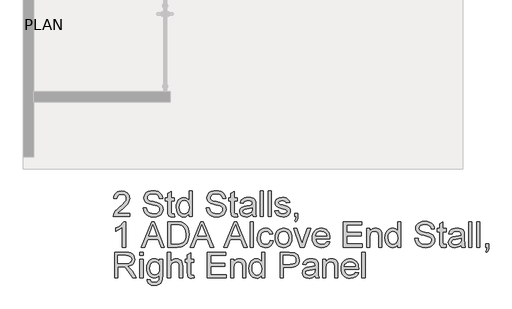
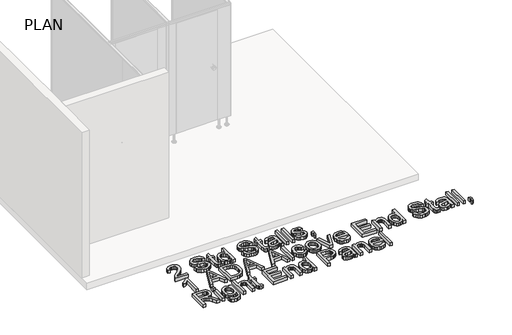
# One storey, part 12 of 21: 1 proxy.
"""IFC4 building model written with IfcOpenShell, lengths in millimetres."""

from ifc_helpers import new_model, si_unit, origin, origin_with_axes, place, context, project, spatial, polyline, outline, extrude, element, save

model = new_model("IFC4")

# Units and contexts
model_context = context("Model", 3, world=origin())
ifc_project = project(units=[si_unit("LENGTHUNIT", "METRE", prefix="MILLI")], contexts=[model_context])

# Site, building, storey
site = spatial("IfcSite", under=ifc_project)
building = spatial("IfcBuilding", under=site)
storey = spatial("IfcBuildingStorey", under=building, Name="PLAN", Elevation=0.0)

# Proxy
placement = place(None, origin())
element("IfcBuildingElementProxy", 1, Name="12\" Arial", ObjectType="12\" Arial", at=placement, inside=storey, context=model_context, shape_type="SweptSolid", body=[
    extrude(outline(polyline([(-21818.3095314, 12285.5104506), (-21818.3095314, 12247.4395639), (-22018.1816869, 12247.4395639), (-22014.0920408, 12273.6876557), (-22004.7044443, 12294.2009485), (-21990.9669514, 12314.1007943), (-21971.0949895, 12334.9301052), (-21943.3039858, 12358.2317929), (-21902.2216324, 12394.7225892), (-21877.5722204, 12421.6584851), (-21865.2475143, 12443.5195021), (-21861.139279, 12464.7856615), (-21865.0151481, 12483.8489889), (-21876.6427553, 12499.6963673), (-21894.5163675, 12510.3759202), (-21917.1302511, 12513.9357712), (-21940.8780821, 12510.4595721), (-21959.3279625, 12500.0309747), (-21971.2344093, 12483.4679082), (-21975.3519393, 12461.5883019), (-22013.422826, 12466.3471627), (-22010.1487855, 12486.0007003), (-22004.1932385, 12503.1725664), (-21995.5561849, 12517.8627608), (-21984.2376248, 12530.0712837), (-21970.4978083, 12539.66801), (-21954.5969856, 12546.5228144), (-21916.3123219, 12552.0066579), (-21895.9082413, 12550.4823353), (-21877.7488187, 12545.9093675), (-21861.8340541, 12538.2877544), (-21848.1639475, 12527.6174961), (-21837.1846421, 12514.6886378), (-21829.342281, 12500.2912249), (-21824.6368644, 12484.4252572), (-21823.0683922, 12467.0907347), (-21824.7600186, 12448.8825152), (-21829.8348975, 12430.9903138), (-21838.8414134, 12412.7913889), (-21852.3279507, 12393.6629991), (-21873.8264764, 12370.8260438), (-21906.8689574, 12341.5014228), (-21950.6653486, 12304.8805014), (-21967.841862, 12285.5104506), (-21818.3095314, 12285.5104506)])), origin_with_axes(), (0.0, 0.0, 1.0), 50.8),
    extrude(outline(polyline([(-21661.2671235, 12352.1345025), (-21623.1962368, 12352.1345025), (-21618.8277512, 12331.0077628), (-21610.9272986, 12314.0264371), (-21598.6025926, 12300.5491945), (-21580.9613468, 12289.9347041), (-21559.3977586, 12283.0473684), (-21535.3060255, 12280.7515898), (-21514.095634, 12282.4896894), (-21495.5249232, 12287.7039881), (-21480.4768847, 12295.9576373), (-21469.8345103, 12306.8137886), (-21463.5048536, 12319.2779144), (-21461.394968, 12332.3554871), (-21462.9750585, 12345.0984523), (-21467.7153301, 12356.1126127), (-21477.3445876, 12365.5095039), (-21493.5916359, 12373.4006619), (-21549.0249291, 12387.9374946), (-21585.4134842, 12397.5574574), (-21608.6965826, 12406.7126878), (-21627.6483741, 12419.5207156), (-21641.0791435, 12435.0427812), (-21649.0818373, 12452.9442773), (-21651.7494018, 12472.8905964), (-21648.449801, 12495.188462), (-21638.5509987, 12515.9805942), (-21622.313245, 12533.6032508), (-21599.9967901, 12546.3926893), (-21573.2096086, 12554.1723114), (-21543.5596748, 12556.7655188), (-21511.4373641, 12554.051481), (-21483.3303422, 12545.9093675), (-21460.2424314, 12532.5064821), (-21443.1774539, 12514.0101284), (-21432.3770705, 12491.5728431), (-21428.0829421, 12466.3471627), (-21466.1538289, 12466.3471627), (-21473.1434057, 12489.0632876), (-21487.7174171, 12505.4590503), (-21510.4893098, 12515.3857366), (-21542.0725308, 12518.694632), (-21574.3993238, 12515.4229152), (-21596.5763589, 12505.6077647), (-21609.402976, 12491.1638785), (-21613.6785151, 12474.0059544), (-21610.6484591, 12459.3761752), (-21601.5582914, 12447.6091482), (-21580.0690604, 12437.0876043), (-21539.3956716, 12426.3429888), (-21497.4210318, 12416.137463), (-21472.0280477, 12407.2331882), (-21450.3250398, 12393.4213382), (-21435.1840548, 12376.3749499), (-21426.2890747, 12356.2799164), (-21423.3240813, 12333.3221307), (-21426.7352179, 12309.8531392), (-21436.9686276, 12287.7783453), (-21453.6060513, 12268.7800805), (-21476.2292296, 12254.5406765), (-21503.4346704, 12245.6456964), (-21533.8188815, 12242.680703), (-21571.1183123, 12245.8780627), (-21601.8185416, 12255.4701416), (-21626.2727659, 12271.4941183), (-21644.8341822, 12293.9871715), (-21656.7499236, 12321.3878), (-21661.2671235, 12352.1345025)])), origin_with_axes(), (0.0, 0.0, 1.0), 50.8),
    extrude(outline(polyline([(-21290.0759776, 12279.1900886), (-21285.3171168, 12246.3242059), (-21313.7959246, 12242.680703), (-21332.0692067, 12244.2607935), (-21345.6951637, 12249.0010651), (-21355.3244212, 12256.3066601), (-21361.6076047, 12265.5827208), (-21365.0652145, 12281.5137511), (-21366.2177511, 12308.7842545), (-21366.2177511, 12433.0351368), (-21394.7709162, 12433.0351368), (-21394.7709162, 12471.1060236), (-21366.2177511, 12471.1060236), (-21366.2177511, 12525.4611373), (-21328.1468644, 12547.8426547), (-21328.1468644, 12471.1060236), (-21290.0759776, 12471.1060236), (-21290.0759776, 12433.0351368), (-21328.1468644, 12433.0351368), (-21328.1468644, 12309.8996125), (-21326.13922, 12290.2693115), (-21319.6329649, 12283.3169132), (-21306.6576334, 12280.7515898), (-21290.0759776, 12279.1900886)])), origin_with_axes(), (0.0, 0.0, 1.0), 50.8),
    extrude(outline(polyline([(-21113.9981264, 12247.4395639), (-21113.9981264, 12283.3540918), (-21125.38872, 12265.5594842), (-21139.1866281, 12252.8490502), (-21155.3918505, 12245.2227898), (-21174.0043873, 12242.680703), (-21198.6166208, 12246.3613845), (-21221.1468526, 12257.4034288), (-21240.2194746, 12275.03538), (-21254.4588785, 12298.4857822), (-21263.3259747, 12326.806581), (-21266.2816734, 12359.0497221), (-21263.5583409, 12390.8931933), (-21255.3883435, 12419.6508407), (-21241.7809758, 12443.6868058), (-21222.7455324, 12461.3652303), (-21199.7226841, 12472.2399709), (-21174.1531017, 12475.8648844), (-21155.526623, 12473.2716771), (-21139.056503, 12465.4920549), (-21125.0959386, 12453.5670189), (-21113.9981264, 12438.5375697), (-21113.9981264, 12552.0066579), (-21075.9272396, 12552.0066579), (-21075.9272396, 12247.4395639), (-21113.9981264, 12247.4395639)]), holes=[polyline([(-21228.2107866, 12359.1984365), (-21223.9166583, 12324.761758), (-21211.0342733, 12300.270355), (-21192.314848, 12285.6312811), (-21170.5095989, 12280.7515898), (-21148.7136444, 12285.4082095), (-21130.4682463, 12299.3780686), (-21118.1156564, 12322.9214172), (-21113.9981264, 12356.2985057), (-21118.1900136, 12392.7893019), (-21130.7656751, 12418.0893395), (-21149.4758057, 12432.8678331), (-21172.0711001, 12437.7939977), (-21194.0994208, 12433.0630208), (-21212.1496313, 12418.8700901), (-21224.1954978, 12394.4902229), (-21228.2107866, 12359.1984365)])]), origin_with_axes(), (0.0, 0.0, 1.0), 50.8),
    extrude(outline(polyline([(-20909.36711, 12352.1345025), (-20871.2962233, 12352.1345025), (-20866.9277377, 12331.0077628), (-20859.0272852, 12314.0264371), (-20846.7025791, 12300.5491945), (-20829.0613333, 12289.9347041), (-20807.4977451, 12283.0473684), (-20783.406012, 12280.7515898), (-20762.1956205, 12282.4896894), (-20743.6249097, 12287.7039881), (-20728.5768712, 12295.9576373), (-20717.9344968, 12306.8137886), (-20711.6048401, 12319.2779144), (-20709.4949546, 12332.3554871), (-20711.0750451, 12345.0984523), (-20715.8153166, 12356.1126127), (-20725.4445741, 12365.5095039), (-20741.6916225, 12373.4006619), (-20797.1249156, 12387.9374946), (-20833.5134707, 12397.5574574), (-20856.7965691, 12406.7126878), (-20875.7483607, 12419.5207156), (-20889.17913, 12435.0427812), (-20897.1818238, 12452.9442773), (-20899.8493883, 12472.8905964), (-20896.5497876, 12495.188462), (-20886.6509852, 12515.9805942), (-20870.4132315, 12533.6032508), (-20848.0967767, 12546.3926893), (-20821.3095951, 12554.1723114), (-20791.6596613, 12556.7655188), (-20759.5373506, 12554.051481), (-20731.4303288, 12545.9093675), (-20708.3424179, 12532.5064821), (-20691.2774404, 12514.0101284), (-20680.477057, 12491.5728431), (-20676.1829286, 12466.3471627), (-20714.2538154, 12466.3471627), (-20721.2433923, 12489.0632876), (-20735.8174036, 12505.4590503), (-20758.5892963, 12515.3857366), (-20790.1725173, 12518.694632), (-20822.4993103, 12515.4229152), (-20844.6763454, 12505.6077647), (-20857.5029625, 12491.1638785), (-20861.7785016, 12474.0059544), (-20858.7484457, 12459.3761752), (-20849.6582779, 12447.6091482), (-20828.1690469, 12437.0876043), (-20787.4956581, 12426.3429888), (-20745.5210183, 12416.137463), (-20720.1280343, 12407.2331882), (-20698.4250263, 12393.4213382), (-20683.2840413, 12376.3749499), (-20674.3890612, 12356.2799164), (-20671.4240678, 12333.3221307), (-20674.8352044, 12309.8531392), (-20685.0686141, 12287.7783453), (-20701.7060378, 12268.7800805), (-20724.3292161, 12254.5406765), (-20751.5346569, 12245.6456964), (-20781.918868, 12242.680703), (-20819.2182988, 12245.8780627), (-20849.9185281, 12255.4701416), (-20874.3727525, 12271.4941183), (-20892.9341687, 12293.9871715), (-20904.8499101, 12321.3878), (-20909.36711, 12352.1345025)])), origin_with_axes(), (0.0, 0.0, 1.0), 50.8),
    extrude(outline(polyline([(-20538.1759641, 12279.1900886), (-20533.4171033, 12246.3242059), (-20561.8959112, 12242.680703), (-20580.1691932, 12244.2607935), (-20593.7951503, 12249.0010651), (-20603.4244078, 12256.3066601), (-20609.7075912, 12265.5827208), (-20613.165201, 12281.5137511), (-20614.3177377, 12308.7842545), (-20614.3177377, 12433.0351368), (-20642.8709027, 12433.0351368), (-20642.8709027, 12471.1060236), (-20614.3177377, 12471.1060236), (-20614.3177377, 12525.4611373), (-20576.2468509, 12547.8426547), (-20576.2468509, 12471.1060236), (-20538.1759641, 12471.1060236), (-20538.1759641, 12433.0351368), (-20576.2468509, 12433.0351368), (-20576.2468509, 12309.8996125), (-20574.2392065, 12290.2693115), (-20567.7329514, 12283.3169132), (-20554.7576199, 12280.7515898), (-20538.1759641, 12279.1900886)])), origin_with_axes(), (0.0, 0.0, 1.0), 50.8),
    extrude(outline(polyline([(-20357.339252, 12275.9927289), (-20375.5288823, 12260.3963061), (-20394.2576022, 12250.1907803), (-20413.9529657, 12244.5582224), (-20435.0425268, 12242.680703), (-20466.858114, 12247.197903), (-20490.3271055, 12260.7495028), (-20504.7988757, 12281.3278581), (-20509.6227991, 12306.9253244), (-20507.8010477, 12322.7076403), (-20502.3357934, 12337.0399907), (-20493.9055458, 12349.3089288), (-20483.1888142, 12358.9010077), (-20456.5317578, 12371.3930174), (-20423.5915179, 12377.1185219), (-20384.6655233, 12383.1414552), (-20357.5623236, 12390.2053892), (-20357.339252, 12398.6821101), (-20359.9603434, 12415.6727305), (-20367.8236173, 12426.789132), (-20385.4090953, 12435.0427812), (-20409.9097929, 12437.7939977), (-20432.5887391, 12435.9629516), (-20448.4268229, 12430.4698134), (-20459.2272063, 12420.3107609), (-20466.7930515, 12404.4819718), (-20504.8639382, 12409.2408326), (-20498.255442, 12430.0608488), (-20488.3938183, 12446.419433), (-20474.3588966, 12458.930032), (-20455.2305068, 12468.2060928), (-20431.8358725, 12473.9501865), (-20405.0022177, 12475.8648844), (-20379.2653316, 12474.1732581), (-20358.8635747, 12469.0983792), (-20343.4809288, 12461.4674714), (-20332.8013758, 12452.1077588), (-20325.7188524, 12440.5359194), (-20321.1272953, 12426.2686316), (-20319.2683653, 12392.9566056), (-20319.2683653, 12345.5910688), (-20317.3350781, 12279.4503388), (-20309.7506436, 12247.4395639), (-20347.8215303, 12247.4395639), (-20353.9188208, 12260.6751456), (-20357.339252, 12275.9927289)]), holes=[polyline([(-20357.339252, 12352.1345025), (-20418.7582998, 12340.460422), (-20451.5126467, 12334.2887743), (-20466.3469083, 12324.2505522), (-20471.5519123, 12309.6021837), (-20468.717044, 12298.2812999), (-20460.2124392, 12289.0052391), (-20446.2239908, 12282.8150021), (-20426.9375919, 12280.7515898), (-20406.4893617, 12283.0287791), (-20388.4205619, 12289.8603469), (-20373.7721934, 12299.9264529), (-20363.5852569, 12311.9072569), (-20359.068057, 12324.2505522), (-20357.5623236, 12341.3527084), (-20357.339252, 12352.1345025)])]), origin_with_axes(), (0.0, 0.0, 1.0), 50.8),
    extrude(outline(polyline([(-20266.920896, 12247.4395639), (-20266.920896, 12552.0066579), (-20228.8500092, 12552.0066579), (-20228.8500092, 12247.4395639), (-20266.920896, 12247.4395639)])), origin_with_axes(), (0.0, 0.0, 1.0), 50.8),
    extrude(outline(polyline([(-20171.7436791, 12247.4395639), (-20171.7436791, 12552.0066579), (-20133.6727923, 12552.0066579), (-20133.6727923, 12247.4395639), (-20171.7436791, 12247.4395639)])), origin_with_axes(), (0.0, 0.0, 1.0), 50.8),
    extrude(outline(polyline([(-20090.8430447, 12314.0636157), (-20052.772158, 12318.8224765), (-20046.767814, 12302.5382496), (-20035.1495014, 12290.5667403), (-20017.8428629, 12283.2053774), (-19994.7735414, 12280.7515898), (-19971.9830594, 12283.0008951), (-19955.9590827, 12289.7488111), (-19946.4785396, 12299.526783), (-19943.3183585, 12310.8662561), (-19946.4971289, 12320.5698708), (-19956.0334399, 12327.9684122), (-19995.2196846, 12338.8245635), (-20052.5490864, 12357.4510423), (-20067.0580352, 12366.810755), (-20077.5702844, 12379.2005235), (-20083.955709, 12393.8303028), (-20086.0841839, 12409.9100474), (-20084.3739683, 12424.6606571), (-20079.2433214, 12438.2773195), (-20071.1569758, 12450.2209448), (-20060.579664, 12459.9524435), (-20036.3763952, 12471.2175594), (-20003.6220483, 12475.8648844), (-19978.8425112, 12473.9966598), (-19957.2975123, 12468.3919858), (-19939.9722845, 12459.5992468), (-19927.8520608, 12448.1668272), (-19919.8214831, 12433.2489138), (-19914.7651935, 12413.9996934), (-19952.8360802, 12409.2408326), (-19957.6414143, 12421.2216366), (-19967.1498414, 12430.2467418), (-19981.4543078, 12435.9071837), (-20000.6477603, 12437.7939977), (-20022.5087773, 12435.9908356), (-20037.0827886, 12430.5813492), (-20045.28067, 12422.7738431), (-20048.0132971, 12413.7766218), (-20043.4775079, 12402.6973989), (-20029.2752825, 12394.2950353), (-19996.483757, 12386.1901004), (-19940.6043207, 12368.270015), (-19925.8444164, 12359.7003476), (-19914.6536577, 12347.9704992), (-19907.5990183, 12333.0432912), (-19905.2474718, 12314.8815449), (-19908.0079829, 12296.1063517), (-19916.2895161, 12278.4465166), (-19929.7760534, 12263.2869423), (-19948.1515766, 12252.0125317), (-19970.347201, 12245.0136602), (-19995.2940418, 12242.680703), (-20033.6809467, 12247.1793137), (-20061.6950221, 12260.6751456), (-20080.395858, 12283.0194844), (-20090.8430447, 12314.0636157)])), origin_with_axes(), (0.0, 0.0, 1.0), 50.8),
    extrude(outline(polyline([(-19852.9000025, 12247.4395639), (-19852.9000025, 12285.5104506), (-19814.8291157, 12285.5104506), (-19814.8291157, 12247.4395639), (-19816.5393313, 12225.6621987), (-19821.6699782, 12208.5135693), (-19830.5184851, 12195.3616394), (-19843.3822808, 12185.5743729), (-19852.9000025, 12199.8509554), (-19844.6463532, 12206.7475858), (-19838.9208488, 12216.2838968), (-19833.9389163, 12247.4395639), (-19852.9000025, 12247.4395639)])), origin_with_axes(), (0.0, 0.0, 1.0), 50.8),
    extrude(outline(polyline([(-21870.6570007, 11881.3868995), (-21908.7278874, 11881.3868995), (-21908.7278874, 12118.7350842), (-21944.7911298, 12093.0446713), (-21984.869661, 12073.823335), (-21984.869661, 12109.8122201), (-21954.9687716, 12126.0778577), (-21929.0645818, 12145.4293192), (-21908.6442356, 12166.0076745), (-21895.1948769, 12185.9539936), (-21870.6570007, 12185.9539936), (-21870.6570007, 11881.3868995)])), origin_with_axes(), (0.0, 0.0, 1.0), 50.8),
    extrude(outline(polyline([(-21682.4589257, 11881.3868995), (-21560.8849026, 12185.9539936), (-21528.4651631, 12185.9539936), (-21406.8911399, 11881.3868995), (-21447.1183855, 11881.3868995), (-21481.9919126, 11976.5641164), (-21607.4325102, 11976.5641164), (-21642.2316801, 11881.3868995), (-21682.4589257, 11881.3868995)]), holes=[polyline([(-21593.4533565, 12014.6350032), (-21495.8967092, 12014.6350032), (-21523.3345162, 12089.5127043), (-21544.6750328, 12147.8831068), (-21563.636119, 12096.056138), (-21593.4533565, 12014.6350032)])]), origin_with_axes(), (0.0, 0.0, 1.0), 50.8),
    extrude(outline(polyline([(-21366.2177511, 11881.3868995), (-21366.2177511, 12185.9539936), (-21261.1510265, 12185.9539936), (-21206.7959128, 12181.5669188), (-21182.5182868, 12173.1087872), (-21162.032878, 12159.780259), (-21140.9712009, 12136.5808123), (-21125.9696357, 12107.7302185), (-21116.9910037, 12073.7861564), (-21113.9981264, 12035.306305), (-21116.0243601, 12002.6170206), (-21122.1030612, 11973.8500786), (-21131.3605327, 11949.3586756), (-21142.9230774, 11929.4960084), (-21156.2330164, 11913.8159337), (-21170.7326705, 11901.8723083), (-21187.3793888, 11893.0145068), (-21207.1305202, 11886.5919036), (-21256.0947369, 11881.3868995), (-21366.2177511, 11881.3868995)]), holes=[polyline([(-21328.1468644, 11919.4577863), (-21260.7792405, 11919.4577863), (-21232.9138796, 11920.8333945), (-21211.7778453, 11924.9602191), (-21195.8282257, 11931.5965993), (-21183.522109, 11940.5008741), (-21170.2958219, 11956.9802887), (-21160.359841, 11978.3115107), (-21154.1417201, 12004.5874864), (-21152.0690131, 12035.9011626), (-21156.1307752, 12077.3924806), (-21168.3160615, 12108.0276473), (-21186.3197987, 12129.0707351), (-21207.8369136, 12141.7858164), (-21229.7351093, 12146.3587842), (-21261.8202414, 12147.8831068), (-21328.1468644, 12147.8831068), (-21328.1468644, 11919.4577863)])]), origin_with_axes(), (0.0, 0.0, 1.0), 50.8),
    extrude(outline(polyline([(-21097.1190418, 11881.3868995), (-20975.5450187, 12185.9539936), (-20943.1252792, 12185.9539936), (-20821.551256, 11881.3868995), (-20861.7785016, 11881.3868995), (-20896.6520287, 11976.5641164), (-21022.0926263, 11976.5641164), (-21056.8917962, 11881.3868995), (-21097.1190418, 11881.3868995)]), holes=[polyline([(-21008.1134726, 12014.6350032), (-20910.5568252, 12014.6350032), (-20937.9946323, 12089.5127043), (-20959.3351489, 12147.8831068), (-20978.2962351, 12096.056138), (-21008.1134726, 12014.6350032)])]), origin_with_axes(), (0.0, 0.0, 1.0), 50.8),
    extrude(outline(polyline([(-20697.3747308, 11881.3868995), (-20575.8007077, 12185.9539936), (-20543.3809682, 12185.9539936), (-20421.806945, 11881.3868995), (-20462.0341906, 11881.3868995), (-20496.9077178, 11976.5641164), (-20622.3483153, 11976.5641164), (-20657.1474853, 11881.3868995), (-20697.3747308, 11881.3868995)]), holes=[polyline([(-20608.3691616, 12014.6350032), (-20510.8125143, 12014.6350032), (-20538.2503213, 12089.5127043), (-20559.5908379, 12147.8831068), (-20578.5519241, 12096.056138), (-20608.3691616, 12014.6350032)])]), origin_with_axes(), (0.0, 0.0, 1.0), 50.8),
    extrude(outline(polyline([(-20385.8924171, 11881.3868995), (-20385.8924171, 12185.9539936), (-20347.8215303, 12185.9539936), (-20347.8215303, 11881.3868995), (-20385.8924171, 11881.3868995)])), origin_with_axes(), (0.0, 0.0, 1.0), 50.8),
    extrude(outline(polyline([(-20147.9493749, 11962.2875339), (-20109.8784881, 11957.5286731), (-20120.4929785, 11923.6682628), (-20140.4392976, 11898.0800911), (-20167.8399261, 11881.9910518), (-20200.8173446, 11876.6280387), (-20222.1694795, 11878.498587), (-20241.314135, 11884.110232), (-20258.2513111, 11893.4629737), (-20272.9810078, 11906.556812), (-20284.9037202, 11923.1454387), (-20293.4199434, 11942.9825457), (-20298.5296773, 11966.0681328), (-20300.2329219, 11992.4022002), (-20297.3236964, 12026.2811998), (-20288.59602, 12055.6429994), (-20273.9104729, 12079.3536518), (-20253.1276353, 12096.2792096), (-20228.2644463, 12106.4289675), (-20201.337845, 12109.8122201), (-20169.169061, 12105.164895), (-20143.4507642, 12091.2229199), (-20125.0008838, 12068.7298667), (-20114.637349, 12038.4293074), (-20152.7082357, 12033.6704466), (-20159.6141607, 12050.2799863), (-20170.3680709, 12062.186433), (-20184.3751086, 12069.3526083), (-20201.0404162, 12071.7413333), (-20225.6433549, 12067.0382404), (-20245.1714148, 12052.9289616), (-20257.91438, 12028.6513355), (-20262.1620351, 11993.443201), (-20258.0073266, 11957.7610393), (-20245.5432008, 11933.3997614), (-20226.3683377, 11919.3741344), (-20202.081417, 11914.6989255), (-20182.3674641, 11917.6174456), (-20166.2040676, 11926.373006), (-20154.4463353, 11941.1886782), (-20147.9493749, 11962.2875339)])), origin_with_axes(), (0.0, 0.0, 1.0), 50.8),
    extrude(outline(polyline([(-20086.0841839, 11993.2201294), (-20084.0254189, 12022.1869064), (-20077.8491239, 12047.1476892), (-20067.5552989, 12068.1024778), (-20053.143944, 12085.0512723), (-20038.6349952, 12095.8841869), (-20022.6203131, 12103.6219831), (-20005.0998977, 12108.2646608), (-19986.0737489, 12109.8122201), (-19965.0701634, 12107.9277298), (-19946.0788696, 12102.2742589), (-19929.0998676, 12092.8518073), (-19914.1331573, 12079.6603752), (-19901.9176634, 12063.1461057), (-19893.1923106, 12043.7551419), (-19887.957099, 12021.487484), (-19886.2120284, 11996.3431318), (-19889.2978522, 11957.8818698), (-19898.5553237, 11928.603722), (-19913.714898, 11906.6776424), (-19934.5070303, 11890.272585), (-19959.2029155, 11880.0391753), (-19986.0737489, 11876.6280387), (-20007.3840579, 11878.505558), (-20026.5519501, 11884.138116), (-20043.5774254, 11893.5257126), (-20058.4604838, 11906.6683478), (-20070.5458526, 11923.34295), (-20079.1782589, 11943.3264477), (-20084.3577026, 11966.6188408), (-20086.0841839, 11993.2201294)]), holes=[polyline([(-20048.0132971, 11993.2944866), (-20043.607633, 11958.8392187), (-20030.3906406, 11934.2920478), (-20010.5000894, 11919.597206), (-19986.0737489, 11914.6989255), (-19961.7589443, 11919.62509), (-19941.9055717, 11934.4035836), (-19928.6885793, 11959.2760673), (-19924.2829152, 11994.4842018), (-19928.7164632, 12027.9356475), (-19942.0171075, 12052.1482109), (-19961.8983641, 12066.8430527), (-19986.0737489, 12071.7413333), (-20010.5000894, 12066.861642), (-20030.3906406, 12052.2225681), (-20043.607633, 12027.7311652), (-20048.0132971, 11993.2944866)])]), origin_with_axes(), (0.0, 0.0, 1.0), 50.8),
    extrude(outline(polyline([(-19788.5066667, 11881.3868995), (-19867.176585, 12105.0533592), (-19826.8749822, 12105.0533592), (-19779.2120166, 11971.0616836), (-19764.8610769, 11926.00122), (-19750.8075659, 11968.5335388), (-19702.8471715, 12105.0533592), (-19662.5455687, 12105.0533592), (-19740.2488434, 11881.3868995), (-19788.5066667, 11881.3868995)])), origin_with_axes(), (0.0, 0.0, 1.0), 50.8),
    extrude(outline(polyline([(-19472.6372781, 11948.0109514), (-19435.3099634, 11943.2520905), (-19448.759322, 11915.1264794), (-19470.2206691, 11894.1019809), (-19499.2106827, 11880.9965242), (-19535.2460411, 11876.6280387), (-19558.8683943, 11878.512529), (-19579.9161294, 11884.1659999), (-19598.3892465, 11893.5884514), (-19614.2877454, 11906.7798836), (-19627.0725366, 11923.3731576), (-19636.2045303, 11943.001135), (-19641.6837266, 11965.6638155), (-19643.5101253, 11991.3611994), (-19641.6651373, 12017.9299566), (-19636.1301731, 12041.3478275), (-19626.9052329, 12061.6148121), (-19613.9903166, 12078.7309102), (-19598.1336436, 12092.3289833), (-19580.0834331, 12102.0418926), (-19559.8396852, 12107.8696382), (-19537.4023999, 12109.8122201), (-19515.6877736, 12107.8742855), (-19496.0505017, 12102.0604819), (-19478.490584, 12092.3708092), (-19463.0080206, 12078.8052674), (-19450.3696202, 12061.7263479), (-19441.3421913, 12041.4965419), (-19435.9257339, 12018.1158497), (-19434.1202481, 11991.584271), (-19434.3433197, 11981.3229773), (-19605.4392386, 11981.3229773), (-19598.8493316, 11952.8255801), (-19583.5410429, 11931.8754388), (-19561.4476597, 11918.9930538), (-19534.5024691, 11914.6989255), (-19514.2401319, 11916.6879806), (-19497.1751543, 11922.6551459), (-19483.3075364, 11932.9722075), (-19472.6372781, 11948.0109514)]), holes=[polyline([(-19605.4392386, 12019.393864), (-19472.1911349, 12019.393864), (-19477.340371, 12039.5074868), (-19487.434361, 12053.8956052), (-19509.6299855, 12067.2799013), (-19537.5511143, 12071.7413333), (-19563.2136432, 12068.1814823), (-19584.4333294, 12057.5019294), (-19599.183939, 12040.8552111), (-19605.4392386, 12019.393864)])]), origin_with_axes(), (0.0, 0.0, 1.0), 50.8),
    extrude(outline(polyline([(-19272.3189794, 11881.3868995), (-19272.3189794, 12185.9539936), (-19053.4113806, 12185.9539936), (-19053.4113806, 12147.8831068), (-19234.2480927, 12147.8831068), (-19234.2480927, 12057.4647508), (-19062.9291022, 12057.4647508), (-19062.9291022, 12019.393864), (-19234.2480927, 12019.393864), (-19234.2480927, 11919.4577863), (-19048.6525197, 11919.4577863), (-19048.6525197, 11881.3868995), (-19272.3189794, 11881.3868995)])), origin_with_axes(), (0.0, 0.0, 1.0), 50.8),
    extrude(outline(polyline([(-18996.3050504, 11881.3868995), (-18996.3050504, 12105.0533592), (-18958.2341637, 12105.0533592), (-18958.2341637, 12073.823335), (-18945.0078766, 12089.5684722), (-18929.1233196, 12100.8149988), (-18910.5804927, 12107.5629148), (-18889.3793958, 12109.8122201), (-18870.6134973, 12107.9997633), (-18853.4276893, 12102.562393), (-18839.0953388, 12094.1786186), (-18828.889813, 12083.5269496), (-18817.4759827, 12055.5314636), (-18815.4683383, 12018.7246492), (-18815.4683383, 11881.3868995), (-18853.5392251, 11881.3868995), (-18853.5392251, 12013.5940024), (-18857.9262999, 12047.2778143), (-18863.9957064, 12057.3067417), (-18873.4297763, 12065.0863639), (-18885.522116, 12070.077591), (-18899.5663323, 12071.7413333), (-18921.8641979, 12068.004884), (-18940.8717573, 12056.795536), (-18948.4678101, 12047.644953), (-18953.8935621, 12035.1390013), (-18958.2341637, 12000.0609919), (-18958.2341637, 11881.3868995), (-18996.3050504, 11881.3868995)])), origin_with_axes(), (0.0, 0.0, 1.0), 50.8),
    extrude(outline(polyline([(-18625.1139045, 11881.3868995), (-18625.1139045, 11917.3014275), (-18636.5044982, 11899.5068199), (-18650.3024063, 11886.7963859), (-18666.5076287, 11879.1701255), (-18685.1201655, 11876.6280387), (-18709.7323989, 11880.3087201), (-18732.2626307, 11891.3507644), (-18751.3352527, 11908.9827156), (-18765.5746566, 11932.4331178), (-18774.4417528, 11960.7539166), (-18777.3974516, 11992.9970578), (-18774.6741191, 12024.840529), (-18766.5041217, 12053.5981764), (-18752.8967539, 12077.6341415), (-18733.8613105, 12095.312566), (-18710.8384623, 12106.1873066), (-18685.2688799, 12109.8122201), (-18666.6424011, 12107.2190127), (-18650.1722812, 12099.4393906), (-18636.2117167, 12087.5143545), (-18625.1139045, 12072.4849053), (-18625.1139045, 12185.9539936), (-18587.0430178, 12185.9539936), (-18587.0430178, 11881.3868995), (-18625.1139045, 11881.3868995)]), holes=[polyline([(-18739.3265648, 11993.1457722), (-18735.0324365, 11958.7090936), (-18722.1500514, 11934.2176906), (-18703.4306262, 11919.5786167), (-18681.6253771, 11914.6989255), (-18659.8294226, 11919.3555451), (-18641.5840245, 11933.3254042), (-18629.2314345, 11956.8687529), (-18625.1139045, 11990.2458414), (-18629.3057917, 12026.7366376), (-18641.8814533, 12052.0366751), (-18660.5915839, 12066.8151688), (-18683.1868783, 12071.7413333), (-18705.215199, 12067.0103564), (-18723.2654094, 12052.8174258), (-18735.311276, 12028.4375586), (-18739.3265648, 11993.1457722)])]), origin_with_axes(), (0.0, 0.0, 1.0), 50.8),
    extrude(outline(polyline([(-18420.4828882, 11986.0818381), (-18382.4120014, 11986.0818381), (-18378.0435159, 11964.9550985), (-18370.1430633, 11947.9737728), (-18357.8183573, 11934.4965301), (-18340.1771114, 11923.8820397), (-18318.6135232, 11916.994704), (-18294.5217902, 11914.6989255), (-18273.3113987, 11916.437025), (-18254.7406878, 11921.6513237), (-18239.6926493, 11929.904973), (-18229.050275, 11940.7611243), (-18222.7206183, 11953.2252501), (-18220.6107327, 11966.3028227), (-18222.1908232, 11979.045788), (-18226.9310948, 11990.0599484), (-18236.5603523, 11999.4568396), (-18252.8074006, 12007.3479975), (-18308.2406937, 12021.8848303), (-18344.6292488, 12031.5047931), (-18367.9123473, 12040.6600234), (-18386.8641388, 12053.4680513), (-18400.2949082, 12068.9901169), (-18408.2976019, 12086.891613), (-18410.9651665, 12106.8379321), (-18407.6655657, 12129.1357976), (-18397.7667634, 12149.9279299), (-18381.5290097, 12167.5505864), (-18359.2125548, 12180.340025), (-18332.4253733, 12188.1196471), (-18302.7754395, 12190.7128545), (-18270.6531288, 12187.9988166), (-18242.5461069, 12179.8567031), (-18219.4581961, 12166.4538177), (-18202.3932185, 12147.957464), (-18191.5928351, 12125.5201787), (-18187.2987068, 12100.2944984), (-18225.3695936, 12100.2944984), (-18232.3591704, 12123.0106232), (-18246.9331818, 12139.406386), (-18269.7050745, 12149.3330723), (-18301.2882955, 12152.6419677), (-18333.6150885, 12149.3702509), (-18355.7921236, 12139.5551004), (-18368.6187407, 12125.1112141), (-18372.8942797, 12107.9532901), (-18369.8642238, 12093.3235108), (-18360.774056, 12081.5564838), (-18339.284825, 12071.0349399), (-18298.6114362, 12060.2903244), (-18256.6367965, 12050.0847986), (-18231.2438124, 12041.1805238), (-18209.5408045, 12027.3686738), (-18194.3998195, 12010.3222856), (-18185.5048393, 11990.2272521), (-18182.539846, 11967.2694663), (-18185.9509825, 11943.8004749), (-18196.1843923, 11921.7256809), (-18212.8218159, 11902.7274161), (-18235.4449943, 11888.4880122), (-18262.6504351, 11879.5930321), (-18293.0346462, 11876.6280387), (-18330.334077, 11879.8253983), (-18361.0343062, 11889.4174772), (-18385.4885306, 11905.441454), (-18404.0499468, 11927.9345072), (-18415.9656883, 11955.3351356), (-18420.4828882, 11986.0818381)])), origin_with_axes(), (0.0, 0.0, 1.0), 50.8),
    extrude(outline(polyline([(-18049.2917423, 11913.1374242), (-18044.5328815, 11880.2715415), (-18073.0116893, 11876.6280387), (-18091.2849714, 11878.2081292), (-18104.9109284, 11882.9484008), (-18114.5401859, 11890.2539957), (-18120.8233694, 11899.5300565), (-18124.2809792, 11915.4610868), (-18125.4335158, 11942.7315901), (-18125.4335158, 12066.9824725), (-18153.9866809, 12066.9824725), (-18153.9866809, 12105.0533592), (-18125.4335158, 12105.0533592), (-18125.4335158, 12159.408473), (-18087.3626291, 12181.7899904), (-18087.3626291, 12105.0533592), (-18049.2917423, 12105.0533592), (-18049.2917423, 12066.9824725), (-18087.3626291, 12066.9824725), (-18087.3626291, 11943.8469481), (-18085.3549846, 11924.2166471), (-18078.8487296, 11917.2642489), (-18065.8733981, 11914.6989255), (-18049.2917423, 11913.1374242)])), origin_with_axes(), (0.0, 0.0, 1.0), 50.8),
    extrude(outline(polyline([(-17868.4550302, 11909.9400646), (-17886.6446604, 11894.3436418), (-17905.3733803, 11884.138116), (-17925.0687439, 11878.505558), (-17946.1583049, 11876.6280387), (-17977.9738922, 11881.1452386), (-18001.4428836, 11894.6968385), (-18015.9146538, 11915.2751938), (-18020.7385772, 11940.8726601), (-18018.9168258, 11956.6549759), (-18013.4515716, 11970.9873264), (-18005.0213239, 11983.2562645), (-17994.3045924, 11992.8483434), (-17967.6475359, 12005.3403531), (-17934.707296, 12011.0658576), (-17895.7813015, 12017.0887908), (-17868.6781018, 12024.1527249), (-17868.4550302, 12032.6294458), (-17871.0761215, 12049.6200661), (-17878.9393955, 12060.7364676), (-17896.5248735, 12068.9901169), (-17921.0255711, 12071.7413333), (-17943.7045173, 12069.9102873), (-17959.5426011, 12064.4171491), (-17970.3429845, 12054.2580965), (-17977.9088296, 12038.4293074), (-18015.9797164, 12043.1881683), (-18009.3712202, 12064.0081845), (-17999.5095964, 12080.3667686), (-17985.4746748, 12092.8773676), (-17966.3462849, 12102.1534284), (-17942.9516506, 12107.8975222), (-17916.1179958, 12109.8122201), (-17890.3811098, 12108.1205938), (-17869.9793528, 12103.0457148), (-17854.5967069, 12095.4148071), (-17843.917154, 12086.0550945), (-17836.8346306, 12074.4832551), (-17832.2430735, 12060.2159672), (-17830.3841434, 12026.9039413), (-17830.3841434, 11979.5384045), (-17828.4508562, 11913.3976744), (-17820.8664217, 11881.3868995), (-17858.9373085, 11881.3868995), (-17865.034599, 11894.6224813), (-17868.4550302, 11909.9400646)]), holes=[polyline([(-17868.4550302, 11986.0818381), (-17929.874078, 11974.4077576), (-17962.6284249, 11968.23611), (-17977.4626864, 11958.1978879), (-17982.6676905, 11943.5495193), (-17979.8328222, 11932.2286355), (-17971.3282174, 11922.9525747), (-17957.339769, 11916.7623378), (-17938.0533701, 11914.6989255), (-17917.6051399, 11916.9761147), (-17899.5363401, 11923.8076825), (-17884.8879716, 11933.8737886), (-17874.7010351, 11945.8545925), (-17870.1838351, 11958.1978879), (-17868.6781018, 11975.300044), (-17868.4550302, 11986.0818381)])]), origin_with_axes(), (0.0, 0.0, 1.0), 50.8),
    extrude(outline(polyline([(-17778.0366741, 11881.3868995), (-17778.0366741, 12185.9539936), (-17739.9657874, 12185.9539936), (-17739.9657874, 11881.3868995), (-17778.0366741, 11881.3868995)])), origin_with_axes(), (0.0, 0.0, 1.0), 50.8),
    extrude(outline(polyline([(-17682.8594572, 11881.3868995), (-17682.8594572, 12185.9539936), (-17644.7885705, 12185.9539936), (-17644.7885705, 11881.3868995), (-17682.8594572, 11881.3868995)])), origin_with_axes(), (0.0, 0.0, 1.0), 50.8),
    extrude(outline(polyline([(-17578.1645187, 11881.3868995), (-17578.1645187, 11919.4577863), (-17540.0936319, 11919.4577863), (-17540.0936319, 11881.3868995), (-17541.8038475, 11859.6095344), (-17546.9344944, 11842.460905), (-17555.7830013, 11829.3089751), (-17568.646797, 11819.5217086), (-17578.1645187, 11833.7982911), (-17569.9108694, 11840.6949215), (-17564.1853649, 11850.2312324), (-17559.2034325, 11881.3868995), (-17578.1645187, 11881.3868995)])), origin_with_axes(), (0.0, 0.0, 1.0), 50.8),
    extrude(outline(polyline([(-21999.1462435, 11515.3342352), (-21999.1462435, 11819.9013293), (-21867.9057843, 11819.9013293), (-21832.6325872, 11817.8472116), (-21806.9700583, 11811.6848586), (-21788.2134544, 11800.3082069), (-21773.6580324, 11782.6111931), (-21764.316909, 11760.6665243), (-21761.2032013, 11736.5469073), (-21766.3617321, 11706.5437768), (-21781.8373245, 11681.6712932), (-21793.5602019, 11671.5354772), (-21808.0947109, 11663.4351897), (-21845.5986241, 11653.3411997), (-21823.9606786, 11637.0569727), (-21793.1024404, 11597.870728), (-21742.3164723, 11515.3342352), (-21786.5590067, 11515.3342352), (-21826.1913947, 11578.4634986), (-21854.8189169, 11620.2522454), (-21874.9325397, 11639.9940822), (-21893.0385181, 11647.2439092), (-21915.1226067, 11648.5823389), (-21961.0753567, 11648.5823389), (-21961.0753567, 11515.3342352), (-21999.1462435, 11515.3342352)]), holes=[polyline([(-21961.0753567, 11686.6532256), (-21875.8620047, 11686.6532256), (-21851.3891911, 11688.0009499), (-21832.4002209, 11692.0441227), (-21818.1050491, 11699.0522888), (-21807.7136303, 11709.2949932), (-21801.3839736, 11721.6847618), (-21799.274088, 11735.1341205), (-21803.2986715, 11753.7048313), (-21815.372422, 11768.669218), (-21836.1459649, 11778.5401364), (-21866.2699258, 11781.8304425), (-21961.0753567, 11781.8304425), (-21961.0753567, 11686.6532256)])]), origin_with_axes(), (0.0, 0.0, 1.0), 50.8),
    extrude(outline(polyline([(-21699.3380103, 11781.8304425), (-21699.3380103, 11819.9013293), (-21661.2671235, 11819.9013293), (-21661.2671235, 11781.8304425), (-21699.3380103, 11781.8304425)])), origin_with_axes(), (0.0, 0.0, 1.0), 50.8),
    extrude(outline(polyline([(-21699.3380103, 11515.3342352), (-21699.3380103, 11739.0006949), (-21661.2671235, 11739.0006949), (-21661.2671235, 11515.3342352), (-21699.3380103, 11515.3342352)])), origin_with_axes(), (0.0, 0.0, 1.0), 50.8),
    extrude(outline(polyline([(-21613.6785151, 11496.2987918), (-21575.6076283, 11491.539931), (-21571.4064465, 11479.6427789), (-21563.264333, 11471.4634868), (-21547.2589455, 11465.1059461), (-21526.3088042, 11462.9867659), (-21503.9644654, 11465.3847856), (-21487.3456311, 11472.5788448), (-21475.820265, 11484.1042109), (-21468.7563309, 11499.4961514), (-21466.1538289, 11543.8874003), (-21478.8224369, 11531.3953906), (-21492.9595997, 11522.4725265), (-21508.5653172, 11517.118808), (-21525.6395894, 11515.3342352), (-21546.5130499, 11517.4115895), (-21564.8908968, 11523.6436524), (-21580.7731301, 11534.0304239), (-21594.1597499, 11548.5719039), (-21604.7812113, 11566.0179621), (-21612.3679694, 11585.1184681), (-21616.9200243, 11605.8734217), (-21618.4373759, 11628.2828231), (-21615.7140434, 11659.0202309), (-21607.544046, 11687.2852618), (-21594.2155178, 11711.2375751), (-21576.0165929, 11729.03683), (-21553.570013, 11740.0788743), (-21527.4985195, 11743.7595558), (-21509.6946172, 11741.6775541), (-21493.535868, 11735.4315493), (-21479.0222719, 11725.0215412), (-21466.1538289, 11710.4475298), (-21466.1538289, 11739.0006949), (-21428.0829421, 11739.0006949), (-21428.0829421, 11545.8950447), (-21430.6854441, 11501.3086082), (-21438.4929502, 11471.9468086), (-21451.9423089, 11452.4745167), (-21471.4703687, 11437.5566033), (-21496.6495758, 11428.0760602), (-21527.0523763, 11424.9158791), (-21562.4742877, 11429.3680165), (-21590.3675326, 11442.7244287), (-21600.8728109, 11452.7510325), (-21608.2597341, 11465.0222943), (-21612.5283021, 11479.538214), (-21613.6785151, 11496.2987918)]), holes=[polyline([(-21580.3664892, 11630.8853251), (-21576.3047271, 11595.9653247), (-21564.1194408, 11571.9572435), (-21545.7996855, 11558.0431524), (-21523.3345162, 11553.405122), (-21501.0366507, 11558.0152684), (-21482.6239488, 11571.8457077), (-21470.2713589, 11595.5470655), (-21466.1538289, 11629.7699671), (-21470.3921893, 11662.7752695), (-21483.1072706, 11686.5416898), (-21501.7895173, 11700.9019242), (-21523.9293738, 11705.688669), (-21545.6695604, 11700.9762814), (-21563.8963692, 11686.8391186), (-21576.2489592, 11663.425895), (-21580.3664892, 11630.8853251)])]), origin_with_axes(), (0.0, 0.0, 1.0), 50.8),
    extrude(outline(polyline([(-21370.976612, 11515.3342352), (-21370.976612, 11819.9013293), (-21332.9057252, 11819.9013293), (-21332.9057252, 11707.919385), (-21318.9219242, 11723.5994597), (-21303.2186128, 11734.7995131), (-21285.7957913, 11741.5195451), (-21266.6534594, 11743.7595558), (-21243.6584951, 11741.3150628), (-21223.898069, 11733.9815839), (-21208.3388248, 11722.3353873), (-21197.947406, 11706.9527414), (-21192.0917764, 11685.8167071), (-21190.1398999, 11656.9103453), (-21190.1398999, 11515.3342352), (-21228.2107866, 11515.3342352), (-21228.2107866, 11652.9694137), (-21231.2408426, 11676.8008965), (-21240.3310104, 11693.1223021), (-21254.9793789, 11702.5470773), (-21274.6840371, 11705.688669), (-21290.7730764, 11703.5694888), (-21305.8768828, 11697.2119481), (-21318.3874818, 11687.2294939), (-21326.696899, 11674.2355731), (-21331.3535187, 11656.9661132), (-21332.9057252, 11634.1570419), (-21332.9057252, 11515.3342352), (-21370.976612, 11515.3342352)])), origin_with_axes(), (0.0, 0.0, 1.0), 50.8),
    extrude(outline(polyline([(-21056.8917962, 11547.0847599), (-21052.1329354, 11514.2188772), (-21080.6117432, 11510.5753744), (-21098.8850253, 11512.1554649), (-21112.5109823, 11516.8957364), (-21122.1402398, 11524.2013314), (-21128.4234233, 11533.4773922), (-21131.8810331, 11549.4084224), (-21133.0335697, 11576.6789258), (-21133.0335697, 11700.9298081), (-21161.5867348, 11700.9298081), (-21161.5867348, 11739.0006949), (-21133.0335697, 11739.0006949), (-21133.0335697, 11793.3558086), (-21094.962683, 11815.737326), (-21094.962683, 11739.0006949), (-21056.8917962, 11739.0006949), (-21056.8917962, 11700.9298081), (-21094.962683, 11700.9298081), (-21094.962683, 11577.7942838), (-21092.9550386, 11558.1639828), (-21086.4487835, 11551.2115845), (-21073.473452, 11548.6462611), (-21056.8917962, 11547.0847599)])), origin_with_axes(), (0.0, 0.0, 1.0), 50.8),
    extrude(outline(polyline([(-20895.0905275, 11515.3342352), (-20895.0905275, 11819.9013293), (-20676.1829286, 11819.9013293), (-20676.1829286, 11781.8304425), (-20857.0196407, 11781.8304425), (-20857.0196407, 11691.4120865), (-20685.7006503, 11691.4120865), (-20685.7006503, 11653.3411997), (-20857.0196407, 11653.3411997), (-20857.0196407, 11553.405122), (-20671.4240678, 11553.405122), (-20671.4240678, 11515.3342352), (-20895.0905275, 11515.3342352)])), origin_with_axes(), (0.0, 0.0, 1.0), 50.8),
    extrude(outline(polyline([(-20619.0765985, 11515.3342352), (-20619.0765985, 11739.0006949), (-20581.0057117, 11739.0006949), (-20581.0057117, 11707.7706706), (-20567.7794247, 11723.5158079), (-20551.8948677, 11734.7623345), (-20533.3520407, 11741.5102504), (-20512.1509439, 11743.7595558), (-20493.3850454, 11741.947099), (-20476.1992374, 11736.5097287), (-20461.8668869, 11728.1259543), (-20451.6613611, 11717.4742853), (-20440.2475308, 11689.4787992), (-20438.2398864, 11652.6719849), (-20438.2398864, 11515.3342352), (-20476.3107732, 11515.3342352), (-20476.3107732, 11647.541338), (-20480.697848, 11681.22515), (-20486.7672545, 11691.2540774), (-20496.2013243, 11699.0336995), (-20508.2936641, 11704.0249266), (-20522.3378804, 11705.688669), (-20544.6357459, 11701.9522197), (-20563.6433054, 11690.7428717), (-20571.2393582, 11681.5922886), (-20576.6651102, 11669.0863369), (-20581.0057117, 11634.0083275), (-20581.0057117, 11515.3342352), (-20619.0765985, 11515.3342352)])), origin_with_axes(), (0.0, 0.0, 1.0), 50.8),
    extrude(outline(polyline([(-20247.8854526, 11515.3342352), (-20247.8854526, 11551.2487631), (-20259.2760463, 11533.4541555), (-20273.0739543, 11520.7437216), (-20289.2791768, 11513.1174612), (-20307.8917136, 11510.5753744), (-20332.503947, 11514.2560558), (-20355.0341788, 11525.2981001), (-20374.1068008, 11542.9300513), (-20388.3462047, 11566.3804535), (-20397.2133009, 11594.7012523), (-20400.1689996, 11626.9443935), (-20397.4456672, 11658.7878647), (-20389.2756697, 11687.545512), (-20375.668302, 11711.5814771), (-20356.6328586, 11729.2599016), (-20333.6100104, 11740.1346422), (-20308.040428, 11743.7595558), (-20289.4139492, 11741.1663484), (-20272.9438292, 11733.3867263), (-20258.9832648, 11721.4616902), (-20247.8854526, 11706.432241), (-20247.8854526, 11819.9013293), (-20209.8145658, 11819.9013293), (-20209.8145658, 11515.3342352), (-20247.8854526, 11515.3342352)]), holes=[polyline([(-20362.0981129, 11627.0931079), (-20357.8039845, 11592.6564293), (-20344.9215995, 11568.1650263), (-20326.2021742, 11553.5259524), (-20304.3969251, 11548.6462611), (-20282.6009707, 11553.3028808), (-20264.3555726, 11567.2727399), (-20252.0029826, 11590.8160886), (-20247.8854526, 11624.193177), (-20252.0773398, 11660.6839733), (-20264.6530014, 11685.9840108), (-20283.363132, 11700.7625044), (-20305.9584264, 11705.688669), (-20327.9867471, 11700.9576921), (-20346.0369575, 11686.7647614), (-20358.082824, 11662.3848942), (-20362.0981129, 11627.0931079)])]), origin_with_axes(), (0.0, 0.0, 1.0), 50.8),
    extrude(outline(polyline([(-20028.9778537, 11515.3342352), (-20028.9778537, 11819.9013293), (-19916.1036231, 11819.9013293), (-19870.5970163, 11817.0013984), (-19850.3067951, 11811.5826174), (-19833.6043089, 11802.7619945), (-19820.1549502, 11790.1398597), (-19809.6241117, 11773.316543), (-19802.8204278, 11753.4724651), (-19800.5525332, 11731.7880464), (-19802.0838268, 11713.0918578), (-19806.6777076, 11695.8921078), (-19814.3341756, 11680.1887965), (-19825.0532308, 11665.9819238), (-19839.7689856, 11654.2056022), (-19859.4155522, 11645.7939438), (-19883.9929307, 11640.7469488), (-19913.5011211, 11639.0646172), (-19990.906967, 11639.0646172), (-19990.906967, 11515.3342352), (-20028.9778537, 11515.3342352)]), holes=[polyline([(-19990.906967, 11677.1355039), (-19911.270405, 11677.1355039), (-19877.5122359, 11680.6302924), (-19855.2050757, 11691.1146577), (-19842.7688339, 11707.9379743), (-19838.62342, 11730.4496168), (-19841.0679129, 11747.551773), (-19848.4013918, 11761.9770699), (-19859.712981, 11772.8332212), (-19874.0918047, 11779.2279405), (-19912.1626914, 11781.8304425), (-19990.906967, 11781.8304425), (-19990.906967, 11677.1355039)])]), origin_with_axes(), (0.0, 0.0, 1.0), 50.8),
    extrude(outline(polyline([(-19610.1980994, 11543.8874003), (-19628.3877296, 11528.2909774), (-19647.1164495, 11518.0854516), (-19666.8118131, 11512.4528937), (-19687.9013741, 11510.5753744), (-19719.7169614, 11515.0925743), (-19743.1859529, 11528.6441741), (-19757.657723, 11549.2225294), (-19762.4816464, 11574.8199958), (-19760.659895, 11590.6023116), (-19755.1946408, 11604.934662), (-19746.7643931, 11617.2036002), (-19736.0476616, 11626.795679), (-19709.3906051, 11639.2876888), (-19676.4503652, 11645.0131932), (-19637.5243707, 11651.0361265), (-19610.421171, 11658.1000605), (-19610.1980994, 11666.5767814), (-19612.8191907, 11683.5674018), (-19620.6824647, 11694.6838033), (-19638.2679427, 11702.9374526), (-19662.7686403, 11705.688669), (-19685.4475865, 11703.8576229), (-19701.2856703, 11698.3644847), (-19712.0860537, 11688.2054322), (-19719.6518988, 11672.3766431), (-19757.7227856, 11677.1355039), (-19751.1142894, 11697.9555201), (-19741.2526656, 11714.3141043), (-19727.217744, 11726.8247033), (-19708.0893541, 11736.1007641), (-19684.6947199, 11741.8448578), (-19657.861065, 11743.7595558), (-19632.124179, 11742.0679294), (-19611.722422, 11736.9930505), (-19596.3397761, 11729.3621428), (-19585.6602232, 11720.0024301), (-19578.5776998, 11708.4305908), (-19573.9861427, 11694.1633029), (-19572.1272126, 11660.851277), (-19572.1272126, 11613.4857401), (-19570.1939254, 11547.3450101), (-19562.609491, 11515.3342352), (-19600.6803777, 11515.3342352), (-19606.7776682, 11528.5698169), (-19610.1980994, 11543.8874003)]), holes=[polyline([(-19610.1980994, 11620.0291738), (-19671.6171472, 11608.3550933), (-19704.3714941, 11602.1834456), (-19719.2057556, 11592.1452235), (-19724.4107597, 11577.496855), (-19721.5758914, 11566.1759712), (-19713.0712866, 11556.8999104), (-19699.0828382, 11550.7096734), (-19679.7964393, 11548.6462611), (-19659.3482091, 11550.9234504), (-19641.2794093, 11557.7550182), (-19626.6310408, 11567.8211242), (-19616.4441043, 11579.8019282), (-19611.9269043, 11592.1452235), (-19610.421171, 11609.2473797), (-19610.1980994, 11620.0291738)])]), origin_with_axes(), (0.0, 0.0, 1.0), 50.8),
    extrude(outline(polyline([(-19519.7797433, 11515.3342352), (-19519.7797433, 11739.0006949), (-19481.7088566, 11739.0006949), (-19481.7088566, 11707.7706706), (-19468.4825695, 11723.5158079), (-19452.5980125, 11734.7623345), (-19434.0551856, 11741.5102504), (-19412.8540887, 11743.7595558), (-19394.0881902, 11741.947099), (-19376.9023822, 11736.5097287), (-19362.5700318, 11728.1259543), (-19352.364506, 11717.4742853), (-19340.9506757, 11689.4787992), (-19338.9430312, 11652.6719849), (-19338.9430312, 11515.3342352), (-19377.013918, 11515.3342352), (-19377.013918, 11647.541338), (-19381.4009928, 11681.22515), (-19387.4703994, 11691.2540774), (-19396.9044692, 11699.0336995), (-19408.996809, 11704.0249266), (-19423.0410252, 11705.688669), (-19445.3388908, 11701.9522197), (-19464.3464502, 11690.7428717), (-19471.942503, 11681.5922886), (-19477.368255, 11669.0863369), (-19481.7088566, 11634.0083275), (-19481.7088566, 11515.3342352), (-19519.7797433, 11515.3342352)])), origin_with_axes(), (0.0, 0.0, 1.0), 50.8),
    extrude(outline(polyline([(-19129.9992973, 11581.958287), (-19092.6719825, 11577.1994262), (-19106.1213412, 11549.073815), (-19127.5826883, 11528.0493165), (-19156.5727019, 11514.9438599), (-19192.6080603, 11510.5753744), (-19216.2304135, 11512.4598647), (-19237.2781486, 11518.1133356), (-19255.7512656, 11527.5357871), (-19271.6497646, 11540.7272192), (-19284.4345558, 11557.3204933), (-19293.5665495, 11576.9484706), (-19299.0457457, 11599.6111512), (-19300.8721445, 11625.308535), (-19299.0271564, 11651.8772923), (-19293.4921923, 11675.2951632), (-19284.2672521, 11695.5621477), (-19271.3523358, 11712.6782459), (-19255.4956628, 11726.2763189), (-19237.4454523, 11735.9892283), (-19217.2017044, 11741.8169739), (-19194.7644191, 11743.7595558), (-19173.0497928, 11741.8216212), (-19153.4125208, 11736.0078176), (-19135.8526032, 11726.3181449), (-19120.3700398, 11712.7526031), (-19107.7316393, 11695.6736835), (-19098.7042104, 11675.4438776), (-19093.2877531, 11652.0631853), (-19091.4822673, 11625.5316066), (-19091.7053389, 11615.2703129), (-19262.8012577, 11615.2703129), (-19256.2113508, 11586.7729158), (-19240.9030621, 11565.8227745), (-19218.8096789, 11552.9403895), (-19191.8644883, 11548.6462611), (-19171.6021511, 11550.6353162), (-19154.5371735, 11556.6024816), (-19140.6695556, 11566.9195432), (-19129.9992973, 11581.958287)]), holes=[polyline([(-19262.8012577, 11653.3411997), (-19129.5531541, 11653.3411997), (-19134.7023902, 11673.4548225), (-19144.7963802, 11687.8429408), (-19166.9920046, 11701.2272369), (-19194.9131335, 11705.688669), (-19220.5756624, 11702.128818), (-19241.7953485, 11691.4492651), (-19256.5459582, 11674.8025468), (-19262.8012577, 11653.3411997)])]), origin_with_axes(), (0.0, 0.0, 1.0), 50.8),
    extrude(outline(polyline([(-19053.4113806, 11515.3342352), (-19053.4113806, 11819.9013293), (-19015.3404938, 11819.9013293), (-19015.3404938, 11515.3342352), (-19053.4113806, 11515.3342352)])), origin_with_axes(), (0.0, 0.0, 1.0), 50.8),
])

save(model, "model.ifc")
